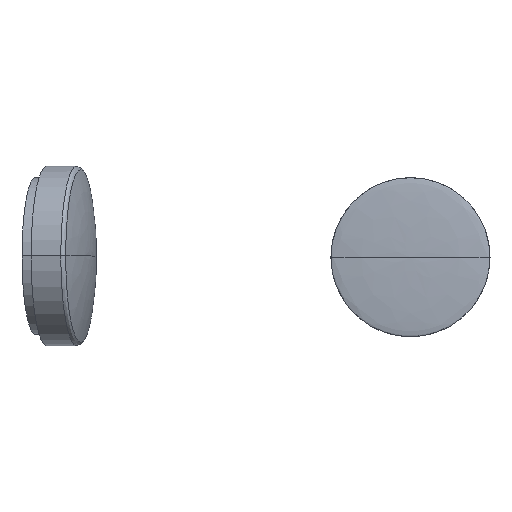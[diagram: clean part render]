
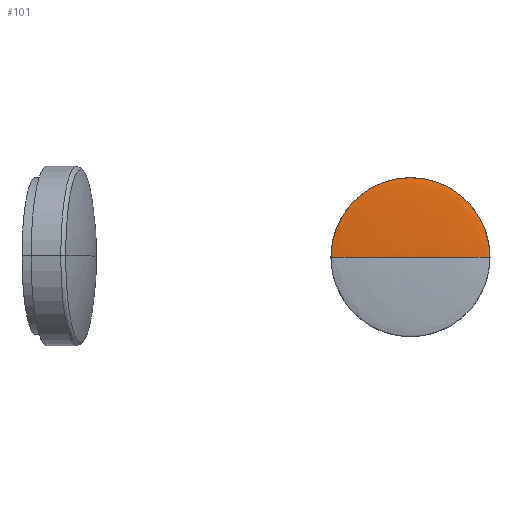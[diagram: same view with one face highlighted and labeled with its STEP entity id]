
A CAD part, top view. The second image highlights one B-rep face of the part: STEP entity #101.
In plain terms, the highlighted free-form (B-spline) face has degree [2, 2] with [5, 3] control points.
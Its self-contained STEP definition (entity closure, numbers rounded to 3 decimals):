
#25=CARTESIAN_POINT('',(305.4,350.,-397.2));
#26=VERTEX_POINT('',#25);
#27=CARTESIAN_POINT('',(270.,350.,-395.25));
#28=VERTEX_POINT('',#27);
#29=CARTESIAN_POINT('',(305.4,350.,-397.2));
#30=CARTESIAN_POINT('',(305.4,350.,-395.25));
#31=CARTESIAN_POINT('',(270.,350.,-395.25));
#39=(BOUNDED_CURVE()B_SPLINE_CURVE(2,(#29,#30,#31),.UNSPECIFIED.,.F.,.U.)CURVE()GEOMETRIC_REPRESENTATION_ITEM()QUASI_UNIFORM_CURVE()RATIONAL_B_SPLINE_CURVE((1.0,0.707,1.0))REPRESENTATION_ITEM(''));
#40=EDGE_CURVE('',#26,#28,#39,.T.);
#42=CARTESIAN_POINT('',(234.6,350.,-397.2));
#43=VERTEX_POINT('',#42);
#44=CARTESIAN_POINT('',(234.6,350.,-397.2));
#45=CARTESIAN_POINT('',(234.6,350.,-395.25));
#46=CARTESIAN_POINT('',(270.,350.,-395.25));
#54=(BOUNDED_CURVE()B_SPLINE_CURVE(2,(#44,#45,#46),.UNSPECIFIED.,.F.,.U.)CURVE()GEOMETRIC_REPRESENTATION_ITEM()QUASI_UNIFORM_CURVE()RATIONAL_B_SPLINE_CURVE((1.0,0.707,1.0))REPRESENTATION_ITEM(''));
#55=EDGE_CURVE('',#43,#28,#54,.T.);
#67=CARTESIAN_POINT('',(305.4,350.,-397.2));
#68=CARTESIAN_POINT('',(305.4,385.4,-397.2));
#69=CARTESIAN_POINT('',(270.,385.4,-397.2));
#70=CARTESIAN_POINT('',(234.6,385.4,-397.2));
#71=CARTESIAN_POINT('',(234.6,350.,-397.2));
#72=CARTESIAN_POINT('',(305.4,350.,-395.25));
#73=CARTESIAN_POINT('',(305.4,385.4,-395.25));
#74=CARTESIAN_POINT('',(270.,385.4,-395.25));
#75=CARTESIAN_POINT('',(234.6,385.4,-395.25));
#76=CARTESIAN_POINT('',(234.6,350.,-395.25));
#77=CARTESIAN_POINT('',(270.,350.,-395.25));
#78=CARTESIAN_POINT('',(270.,350.,-395.25));
#79=CARTESIAN_POINT('',(270.,350.,-395.25));
#80=CARTESIAN_POINT('',(270.,350.,-395.25));
#81=CARTESIAN_POINT('',(270.,350.,-395.25));
#89=(BOUNDED_SURFACE()B_SPLINE_SURFACE(2,2,((#67,#72,#77),(#68,#73,#78),(#69,#74,#79),(#70,#75,#80),(#71,#76,#81)),.UNSPECIFIED.,.F.,.F.,.U.)B_SPLINE_SURFACE_WITH_KNOTS((3,2,3),(3,3),(0.0,0.5,1.0),(0.0,1.0),.UNSPECIFIED.)GEOMETRIC_REPRESENTATION_ITEM()RATIONAL_B_SPLINE_SURFACE(((1.0,0.707,1.0),(0.707,0.5,0.707),(1.0,0.707,1.0),(0.707,0.5,0.707),(1.0,0.707,1.0)))REPRESENTATION_ITEM('')SURFACE());
#90=CARTESIAN_POINT('',(270.,350.,-397.2));
#91=DIRECTION('',(0.0,0.,1.0));
#92=DIRECTION('',(1.0,0.0,0.0));
#93=AXIS2_PLACEMENT_3D('',#90,#91,#92);
#94=CIRCLE('',#93,35.4);
#95=EDGE_CURVE('',#26,#43,#94,.T.);
#96=ORIENTED_EDGE('',*,*,#95,.T.);
#97=ORIENTED_EDGE('',*,*,#55,.T.);
#98=ORIENTED_EDGE('',*,*,#40,.F.);
#99=EDGE_LOOP('',(#96,#97,#98));
#100=FACE_OUTER_BOUND('',#99,.T.);
#101=ADVANCED_FACE('',(#100),#89,.T.);
